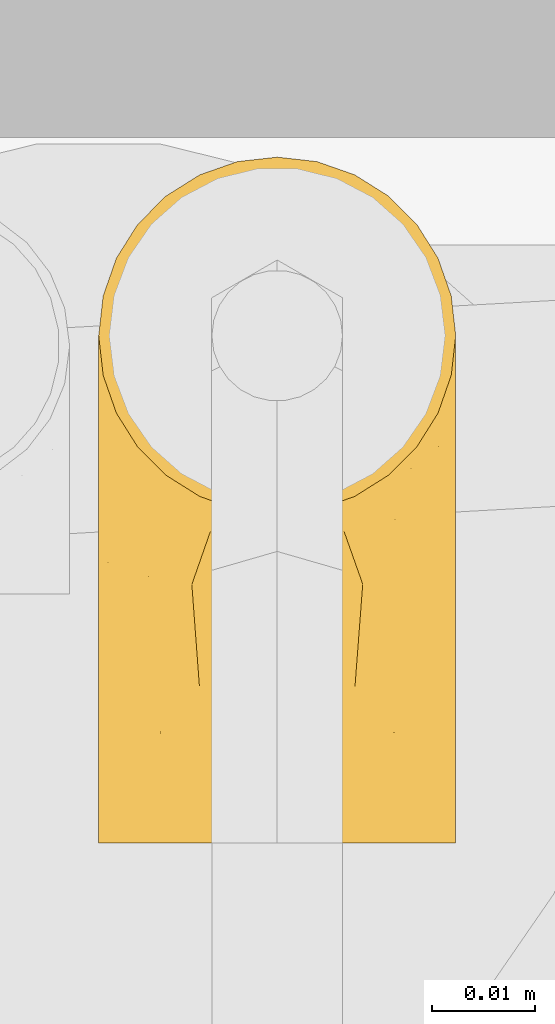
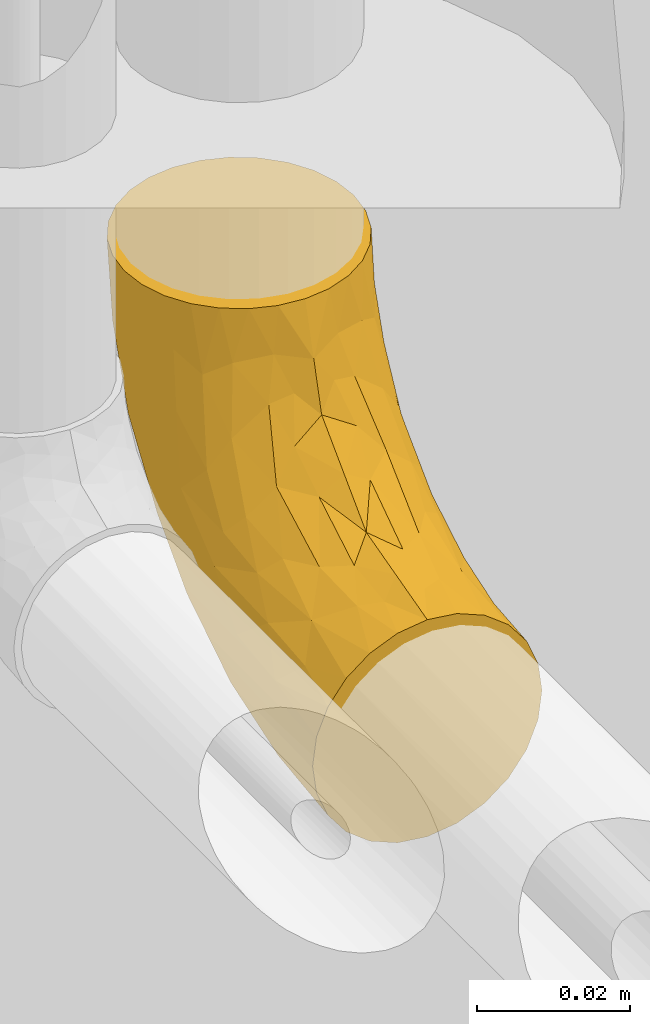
# One storey, part 9 of 30: 1 covering.
"""IFC2X3 building model written with IfcOpenShell, lengths in metres."""

from ifc_helpers import new_model, entity, si_unit, converted_unit, derived_unit, direction, frame, origin, place, context, subcontext, project, spatial, faceted_brep, material, type_object, element, save


model = new_model("IFC2X3")

# Units and contexts
model_context = context("Model", 3, precision=1e-05, world=origin(), true_north=direction((6.123031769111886e-17, 1.0)))
body_context = subcontext(model_context, "Body", "Model", "MODEL_VIEW")
ifc_project = project(units=[si_unit("LENGTHUNIT", "METRE"), si_unit("AREAUNIT", "SQUARE_METRE"), si_unit("VOLUMEUNIT", "CUBIC_METRE"), converted_unit("PLANEANGLEUNIT", "DEGREE", entity("IfcPlaneAngleMeasure", 0.017453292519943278), si_unit("PLANEANGLEUNIT", "RADIAN"), dimensions=[0, 0, 0, 0, 0, 0, 0]), si_unit("MASSUNIT", "GRAM", prefix="KILO"), derived_unit("MASSDENSITYUNIT", [(si_unit("MASSUNIT", "GRAM", prefix="KILO"), 1), (si_unit("LENGTHUNIT", "METRE"), -3)]), derived_unit("IONCONCENTRATIONUNIT", [(si_unit("MASSUNIT", "GRAM", prefix="KILO"), 1), (si_unit("LENGTHUNIT", "METRE"), -3)]), derived_unit("MOMENTOFINERTIAUNIT", [(si_unit("LENGTHUNIT", "METRE"), 4)]), si_unit("TIMEUNIT", "SECOND"), si_unit("FREQUENCYUNIT", "HERTZ"), si_unit("THERMODYNAMICTEMPERATUREUNIT", "DEGREE_CELSIUS"), derived_unit("THERMALTRANSMITTANCEUNIT", [(si_unit("MASSUNIT", "GRAM", prefix="KILO"), 1), (si_unit("THERMODYNAMICTEMPERATUREUNIT", "KELVIN"), -1), (si_unit("TIMEUNIT", "SECOND"), -3)]), derived_unit("THERMALCONDUCTANCEUNIT", [(si_unit("MASSUNIT", "GRAM", prefix="KILO"), 1), (si_unit("THERMODYNAMICTEMPERATUREUNIT", "KELVIN"), -1), (si_unit("TIMEUNIT", "SECOND"), -3), (si_unit("LENGTHUNIT", "METRE"), 1)]), derived_unit("VOLUMETRICFLOWRATEUNIT", [(si_unit("LENGTHUNIT", "METRE", prefix="DECI"), 3), (si_unit("TIMEUNIT", "SECOND"), -1)]), derived_unit("MASSFLOWRATEUNIT", [(si_unit("MASSUNIT", "GRAM", prefix="KILO"), 1), (si_unit("TIMEUNIT", "SECOND"), -1)]), derived_unit("ROTATIONALFREQUENCYUNIT", [(si_unit("TIMEUNIT", "SECOND"), -1)]), si_unit("ELECTRICCURRENTUNIT", "AMPERE"), si_unit("ELECTRICVOLTAGEUNIT", "VOLT"), si_unit("POWERUNIT", "WATT"), si_unit("FORCEUNIT", "NEWTON", prefix="KILO"), si_unit("ILLUMINANCEUNIT", "LUX"), si_unit("LUMINOUSFLUXUNIT", "LUMEN"), si_unit("LUMINOUSINTENSITYUNIT", "CANDELA"), si_unit("ENERGYUNIT", "JOULE"), derived_unit("USERDEFINED", [(si_unit("MASSUNIT", "GRAM", prefix="KILO"), -1), (si_unit("LENGTHUNIT", "METRE"), -2), (si_unit("TIMEUNIT", "SECOND"), 3), (si_unit("LUMINOUSFLUXUNIT", "LUMEN"), 1)]), derived_unit("USERDEFINED", [(si_unit("MASSUNIT", "GRAM", prefix="KILO"), 1), (si_unit("TIMEUNIT", "SECOND"), -3), (si_unit("LENGTHUNIT", "METRE"), 3), (si_unit("ELECTRICCURRENTUNIT", "AMPERE"), -2)]), derived_unit("SOUNDPOWERUNIT", [(si_unit("MASSUNIT", "GRAM", prefix="KILO"), 1), (si_unit("TIMEUNIT", "SECOND"), -3), (si_unit("LENGTHUNIT", "METRE"), 2)]), derived_unit("SOUNDPRESSUREUNIT", [(si_unit("MASSUNIT", "GRAM", prefix="KILO"), 1), (si_unit("LENGTHUNIT", "METRE"), -1), (si_unit("TIMEUNIT", "SECOND"), -2)]), derived_unit("LINEARVELOCITYUNIT", [(si_unit("LENGTHUNIT", "METRE"), 1), (si_unit("TIMEUNIT", "SECOND"), -1)]), si_unit("PRESSUREUNIT", "PASCAL"), derived_unit("USERDEFINED", [(si_unit("MASSUNIT", "GRAM", prefix="KILO"), 1), (si_unit("LENGTHUNIT", "METRE"), -2), (si_unit("TIMEUNIT", "SECOND"), -2)]), derived_unit("LINEARFORCEUNIT", [(si_unit("MASSUNIT", "GRAM", prefix="KILO"), 1), (si_unit("TIMEUNIT", "SECOND"), -2)]), derived_unit("PLANARFORCEUNIT", [(si_unit("MASSUNIT", "GRAM", prefix="KILO"), 1), (si_unit("LENGTHUNIT", "METRE"), -1), (si_unit("TIMEUNIT", "SECOND"), -2)]), derived_unit("SPECIFICHEATCAPACITYUNIT", [(si_unit("THERMODYNAMICTEMPERATUREUNIT", "KELVIN"), -1), (si_unit("LENGTHUNIT", "METRE"), 2), (si_unit("TIMEUNIT", "SECOND"), -2)]), derived_unit("HEATFLUXDENSITYUNIT", [(si_unit("MASSUNIT", "GRAM", prefix="KILO"), 1), (si_unit("TIMEUNIT", "SECOND"), -3)]), derived_unit("HEATINGVALUEUNIT", [(si_unit("LENGTHUNIT", "METRE"), 2), (si_unit("TIMEUNIT", "SECOND"), -2)]), derived_unit("VAPORPERMEABILITYUNIT", [(si_unit("LENGTHUNIT", "METRE"), -1), (si_unit("TIMEUNIT", "SECOND"), 1)]), derived_unit("DYNAMICVISCOSITYUNIT", [(si_unit("MASSUNIT", "GRAM", prefix="KILO"), 1), (si_unit("TIMEUNIT", "SECOND"), -1), (si_unit("LENGTHUNIT", "METRE"), -1)]), derived_unit("THERMALEXPANSIONCOEFFICIENTUNIT", [(si_unit("THERMODYNAMICTEMPERATUREUNIT", "KELVIN"), -1)]), derived_unit("MODULUSOFELASTICITYUNIT", [(si_unit("MASSUNIT", "GRAM", prefix="KILO"), 1), (si_unit("LENGTHUNIT", "METRE"), -1), (si_unit("TIMEUNIT", "SECOND"), -2)]), derived_unit("ISOTHERMALMOISTURECAPACITYUNIT", [(si_unit("MASSUNIT", "GRAM", prefix="KILO"), -1), (si_unit("LENGTHUNIT", "METRE"), 3)]), derived_unit("MOISTUREDIFFUSIVITYUNIT", [(si_unit("TIMEUNIT", "SECOND"), -1), (si_unit("LENGTHUNIT", "METRE"), 2)]), derived_unit("MASSPERLENGTHUNIT", [(si_unit("MASSUNIT", "GRAM", prefix="KILO"), 1), (si_unit("LENGTHUNIT", "METRE"), -1)]), derived_unit("THERMALRESISTANCEUNIT", [(si_unit("MASSUNIT", "GRAM", prefix="KILO"), -1), (si_unit("TIMEUNIT", "SECOND"), 3), (si_unit("THERMODYNAMICTEMPERATUREUNIT", "KELVIN"), 1)]), derived_unit("ACCELERATIONUNIT", [(si_unit("LENGTHUNIT", "METRE"), 1), (si_unit("TIMEUNIT", "SECOND"), -2)]), derived_unit("ANGULARVELOCITYUNIT", [(si_unit("TIMEUNIT", "SECOND"), -1), (si_unit("PLANEANGLEUNIT", "RADIAN"), 1)]), derived_unit("LINEARSTIFFNESSUNIT", [(si_unit("MASSUNIT", "GRAM", prefix="KILO"), 1), (si_unit("TIMEUNIT", "SECOND"), -2)]), derived_unit("WARPINGCONSTANTUNIT", [(si_unit("LENGTHUNIT", "METRE"), 6)]), derived_unit("LINEARMOMENTUNIT", [(si_unit("MASSUNIT", "GRAM", prefix="KILO"), 1), (si_unit("LENGTHUNIT", "METRE"), 1), (si_unit("TIMEUNIT", "SECOND"), -2)]), derived_unit("TORQUEUNIT", [(si_unit("MASSUNIT", "GRAM", prefix="KILO"), 1), (si_unit("LENGTHUNIT", "METRE"), 2), (si_unit("TIMEUNIT", "SECOND"), -2)])], contexts=[model_context])

# Site, building, storey
site_placement = place(None, origin())
site = spatial("IfcSite", under=ifc_project, at=site_placement, Name="Default", CompositionType="ELEMENT")
building_placement = place(site_placement, origin())
building = spatial("IfcBuilding", under=site, at=building_placement, CompositionType="ELEMENT")
storey_placement = place(building_placement, origin())
storey = spatial("IfcBuildingStorey", under=building, at=storey_placement, Name="Niveau 0", CompositionType="ELEMENT", Elevation=-1.949160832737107e-14)

# Covering
ifc_material = material(Name="Matériau du rendu 255-255-255")
covering_type = type_object("IfcCoveringType", Name="Isolation des canalisations:Par défaut", PredefinedType="INSULATION")
covering_placement = place(storey_placement, frame((-19.84773470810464, 2.7983812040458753, -0.4339452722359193)))
element("IfcCovering", 1, at=covering_placement, inside=storey, type_object=covering_type, material=ifc_material, Name="Isolation des canalisations:Par défaut", ObjectType="Isolation des canalisations:Par défaut", PredefinedType="INSULATION", context=body_context, shape_type="Brep", body=[
    faceted_brep([(0.032507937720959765, 0.06171546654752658, 0.06824527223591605), (0.029760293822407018, 0.06446206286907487, 0.06824527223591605), (0.026470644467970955, 0.06652829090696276, 0.06824527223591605), (0.022803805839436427, 0.06781077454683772, 0.06824527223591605), (0.018945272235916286, 0.06824527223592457, 0.06824527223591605), (0.01508260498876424, 0.06780983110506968, 0.06824527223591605), (0.01141465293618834, 0.06652576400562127, 0.06824527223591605), (0.008125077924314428, 0.06445793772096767, 0.06824527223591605), (0.005378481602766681, 0.061710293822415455, 0.06824527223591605), (0.003312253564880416, 0.05842064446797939, 0.06824527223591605), (0.0020297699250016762, 0.05475380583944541, 0.06824527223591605), (0.0015952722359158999, 0.05089527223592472, 0.06824527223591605), (0.00203071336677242, 0.0470326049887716, 0.06824527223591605), (0.003314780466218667, 0.043364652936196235, 0.06824527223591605), (0.005382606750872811, 0.04007507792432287, 0.06824527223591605), (0.008130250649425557, 0.03732848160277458, 0.06824527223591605), (0.01141990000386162, 0.035262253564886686, 0.06824527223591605), (0.015086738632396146, 0.03397976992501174, 0.06824527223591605), (0.018945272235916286, 0.03354527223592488, 0.06824527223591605), (0.022807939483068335, 0.033980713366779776, 0.06824527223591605), (0.026475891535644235, 0.03526478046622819, 0.06824527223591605), (0.029765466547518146, 0.03733260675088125, 0.06824527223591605), (0.0325120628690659, 0.040080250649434, 0.06824527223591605), (0.03457829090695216, 0.04336990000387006, 0.06824527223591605), (0.0358607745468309, 0.04703673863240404, 0.06824527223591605), (0.03629527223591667, 0.05089527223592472, 0.06824527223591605), (0.03585983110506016, 0.054757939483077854, 0.06824527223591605), (0.03457576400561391, 0.05842589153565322, 0.06824527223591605), (0.014454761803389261, 0.0015952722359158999, 0.03570408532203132), (0.010270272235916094, 0.0015952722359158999, 0.03397081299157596), (0.006676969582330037, 0.0015952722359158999, 0.031213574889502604), (0.003919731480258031, 0.0015952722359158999, 0.027620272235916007), (0.002186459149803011, 0.0015952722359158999, 0.023435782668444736), (0.0015952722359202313, 0.0015952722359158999, 0.01894527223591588), (0.002186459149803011, 0.0015952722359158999, 0.014454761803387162), (0.003919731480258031, 0.0015952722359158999, 0.010270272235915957), (0.006676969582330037, 0.0015952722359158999, 0.0066769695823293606), (0.010270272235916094, 0.0015952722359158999, 0.003919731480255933), (0.014454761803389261, 0.0015952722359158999, 0.0021864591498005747), (0.018945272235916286, 0.0015952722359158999, 0.0015952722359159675), (0.023435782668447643, 0.0015952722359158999, 0.0021864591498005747), (0.027620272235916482, 0.0015952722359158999, 0.003919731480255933), (0.03121357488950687, 0.0015952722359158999, 0.0066769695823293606), (0.03397081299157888, 0.0015952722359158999, 0.010270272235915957), (0.035704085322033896, 0.0015952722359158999, 0.014454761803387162), (0.03629527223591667, 0.0015952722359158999, 0.01894527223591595), (0.035704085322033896, 0.0015952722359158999, 0.023435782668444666), (0.03397081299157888, 0.0015952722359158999, 0.02762027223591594), (0.03121357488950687, 0.0015952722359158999, 0.03121357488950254), (0.027620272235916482, 0.0015952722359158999, 0.03397081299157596), (0.023435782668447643, 0.0015952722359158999, 0.03570408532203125), (0.018945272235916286, 0.0015952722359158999, 0.03629527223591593), (0.03133458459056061, 0.04461060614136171, 0.02436700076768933), (0.032451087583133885, 0.0552060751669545, 0.04088020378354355), (0.03378706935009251, 0.046627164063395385, 0.03124045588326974), (0.0221495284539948, 0.0226352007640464, 0.005317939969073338), (0.018945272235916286, 0.018502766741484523, 0.004958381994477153), (0.018945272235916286, 0.027101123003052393, 0.006668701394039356), (0.02881601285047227, 0.026428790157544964, 0.009728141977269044), (0.030682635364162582, 0.034746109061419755, 0.01576098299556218), (0.03274319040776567, 0.027248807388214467, 0.014206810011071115), (0.02524054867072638, 0.017647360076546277, 0.00477606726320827), (0.02920065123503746, 0.01300462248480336, 0.005987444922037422), (0.03568226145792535, 0.04295128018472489, 0.03372303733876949), (0.03629527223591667, 0.03645563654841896, 0.03338490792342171), (0.035977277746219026, 0.031412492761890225, 0.02490495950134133), (0.030752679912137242, 0.061445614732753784, 0.05201300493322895), (0.029890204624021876, 0.05371291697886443, 0.033276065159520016), (0.035814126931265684, 0.018347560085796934, 0.017585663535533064), (0.03439283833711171, 0.026339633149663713, 0.01667542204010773), (0.023163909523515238, 0.0597117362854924, 0.03669274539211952), (0.024353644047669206, 0.06535510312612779, 0.05204597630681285), (0.027451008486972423, 0.059929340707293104, 0.040907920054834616), (0.03226292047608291, 0.01767674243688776, 0.010004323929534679), (0.03629527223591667, 0.04714253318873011, 0.04937897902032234), (0.03629527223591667, 0.04179908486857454, 0.041381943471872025), (0.03478404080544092, 0.013167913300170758, 0.013063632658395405), (0.023959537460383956, 0.03768974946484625, 0.013097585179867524), (0.022772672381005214, 0.04805807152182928, 0.021058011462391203), (0.026249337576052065, 0.050099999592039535, 0.024918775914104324), (0.01894527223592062, 0.06570855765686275, 0.05549234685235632), (0.027542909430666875, 0.03837572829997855, 0.015418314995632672), (0.02460805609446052, 0.028042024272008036, 0.00810343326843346), (0.027861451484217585, 0.06459915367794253, 0.05599549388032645), (0.018945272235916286, 0.06317184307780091, 0.04273942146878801), (0.03629527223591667, 0.04921371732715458, 0.059791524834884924), (0.035914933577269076, 0.051792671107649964, 0.05151216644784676), (0.03331102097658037, 0.059323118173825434, 0.05592114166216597), (0.03484866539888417, 0.036967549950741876, 0.024527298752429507), (0.03502647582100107, 0.05614202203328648, 0.05642461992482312), (0.033085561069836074, 0.03623295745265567, 0.020046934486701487), (0.034797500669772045, 0.05241841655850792, 0.04390302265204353), (0.03629527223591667, 0.02845860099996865, 0.028041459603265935), (0.03629527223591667, 0.020461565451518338, 0.022698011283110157), (0.03629527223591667, 0.049018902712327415, 0.05881212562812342), (0.018945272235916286, 0.05594789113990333, 0.03192801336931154), (0.028838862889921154, 0.045751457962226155, 0.0225377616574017), (0.018945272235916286, 0.037912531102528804, 0.013892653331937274), (0.03629527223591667, 0.01004901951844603, 0.020626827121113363), (0.018945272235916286, 0.04872393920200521, 0.021116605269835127), (0.028741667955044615, 0.035620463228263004, 0.06012681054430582), (0.03550907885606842, 0.012762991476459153, 0.025545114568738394), (0.029714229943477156, 0.02081263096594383, 0.03816302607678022), (0.03027861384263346, 0.01228641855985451, 0.03369863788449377), (0.03257014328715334, 0.02251144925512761, 0.03585312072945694), (0.03596260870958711, 0.04260303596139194, 0.04758380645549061), (0.03575428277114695, 0.045399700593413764, 0.05793604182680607), (0.034643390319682, 0.04014164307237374, 0.05179104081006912), (0.035903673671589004, 0.02204334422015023, 0.027448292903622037), (0.03378644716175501, 0.017602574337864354, 0.031246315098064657), (0.021988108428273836, 0.031224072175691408, 0.055588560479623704), (0.023813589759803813, 0.03344901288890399, 0.0610921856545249), (0.018945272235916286, 0.03132557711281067, 0.05996125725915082), (0.033445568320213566, 0.03422892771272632, 0.04550906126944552), (0.03563656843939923, 0.03727571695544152, 0.041544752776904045), (0.033215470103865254, 0.008887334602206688, 0.029493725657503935), (0.022634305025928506, 0.01435727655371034, 0.03852252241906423), (0.018945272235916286, 0.009879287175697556, 0.03851496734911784), (0.021964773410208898, 0.0075859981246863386, 0.03659242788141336), (0.03195826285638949, 0.03799786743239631, 0.057971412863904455), (0.03039020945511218, 0.03304464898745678, 0.05019700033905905), (0.025154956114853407, 0.009229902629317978, 0.03603849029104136), (0.026502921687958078, 0.016770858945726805, 0.038175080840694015), (0.03413176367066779, 0.04176616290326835, 0.06050425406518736), (0.02725796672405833, 0.026739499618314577, 0.04525391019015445), (0.03143954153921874, 0.027451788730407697, 0.04141450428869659), (0.018945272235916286, 0.029264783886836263, 0.05227027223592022), (0.022825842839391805, 0.02324953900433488, 0.04415845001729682), (0.018945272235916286, 0.01757027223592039, 0.04057576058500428), (0.03537608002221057, 0.02887512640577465, 0.03407046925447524), (0.025434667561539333, 0.03189092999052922, 0.054642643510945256), (0.023656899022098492, 0.02826597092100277, 0.04949521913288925), (0.018945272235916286, 0.023417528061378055, 0.04642301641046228), (0.03385023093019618, 0.029179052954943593, 0.03870099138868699), (0.007611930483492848, 0.012286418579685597, 0.03369863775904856), (0.00915422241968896, 0.035616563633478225, 0.06012621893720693), (0.00593650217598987, 0.03799129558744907, 0.05796574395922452), (0.015925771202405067, 0.007585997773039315, 0.036592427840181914), (0.0019307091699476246, 0.04259271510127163, 0.0475942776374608), (0.0015952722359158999, 0.04179908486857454, 0.041381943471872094), (0.0022613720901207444, 0.03724696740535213, 0.04154972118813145), (0.007507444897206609, 0.0330369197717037, 0.05019606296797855), (0.0064510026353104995, 0.027451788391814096, 0.04141450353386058), (0.004039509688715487, 0.029189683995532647, 0.03870907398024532), (0.005316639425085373, 0.02252106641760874, 0.035853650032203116), (0.01408465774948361, 0.033447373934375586, 0.06109515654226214), (0.0025144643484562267, 0.028875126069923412, 0.03407046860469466), (0.0019868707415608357, 0.022043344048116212, 0.027448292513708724), (0.00410409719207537, 0.017602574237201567, 0.031246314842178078), (0.002381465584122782, 0.012762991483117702, 0.025545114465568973), (0.0015952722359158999, 0.010049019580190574, 0.020626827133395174), (0.003761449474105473, 0.041759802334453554, 0.06049677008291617), (0.002137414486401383, 0.04539407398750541, 0.057931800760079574), (0.0032492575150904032, 0.040131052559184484, 0.05177761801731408), (0.012735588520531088, 0.009229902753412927, 0.03603849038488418), (0.004675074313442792, 0.008887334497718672, 0.029493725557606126), (0.004452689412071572, 0.03422554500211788, 0.04552472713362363), (0.015256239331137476, 0.014357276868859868, 0.038522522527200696), (0.01423508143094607, 0.028258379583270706, 0.049485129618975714), (0.010647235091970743, 0.02671264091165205, 0.04523640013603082), (0.015070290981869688, 0.023230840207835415, 0.04414337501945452), (0.01590572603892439, 0.031223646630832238, 0.0555890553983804), (0.012461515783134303, 0.03189268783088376, 0.054652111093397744), (0.011387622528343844, 0.016770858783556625, 0.038175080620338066), (0.0015952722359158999, 0.04921371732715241, 0.05979152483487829), (0.0015952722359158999, 0.049018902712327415, 0.05881212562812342), (0.0015952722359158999, 0.04714253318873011, 0.04937897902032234), (0.0015952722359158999, 0.020461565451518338, 0.022698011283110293), (0.0015952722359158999, 0.02845860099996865, 0.02804145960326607), (0.008173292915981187, 0.02080538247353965, 0.03815555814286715), (0.0015952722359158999, 0.03645563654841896, 0.03338490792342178), (0.0051445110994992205, 0.027228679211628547, 0.014201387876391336), (0.007214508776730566, 0.03476363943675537, 0.015764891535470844), (0.009074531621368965, 0.026428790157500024, 0.009728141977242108), (0.01574101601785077, 0.022635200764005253, 0.0053179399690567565), (0.013282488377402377, 0.028042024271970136, 0.008103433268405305), (0.013931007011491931, 0.03768974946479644, 0.013097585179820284), (0.010434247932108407, 0.05992974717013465, 0.040915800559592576), (0.013532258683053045, 0.06535408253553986, 0.05204814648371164), (0.014723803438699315, 0.059705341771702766, 0.03668245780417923), (0.005435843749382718, 0.0552010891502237, 0.04088029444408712), (0.004097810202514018, 0.0466060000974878, 0.0312294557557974), (0.0030906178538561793, 0.052421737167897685, 0.0439225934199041), (0.0022062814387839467, 0.042970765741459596, 0.03375784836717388), (0.0020764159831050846, 0.01834045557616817, 0.017583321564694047), (0.003497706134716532, 0.0263396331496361, 0.01667542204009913), (0.004809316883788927, 0.03621599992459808, 0.02002725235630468), (0.0031070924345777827, 0.013166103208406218, 0.013061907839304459), (0.01264999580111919, 0.01764736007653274, 0.0047760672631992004), (0.010023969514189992, 0.06459558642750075, 0.05599323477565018), (0.008689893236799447, 0.013004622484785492, 0.005987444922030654), (0.010351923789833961, 0.03835185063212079, 0.015398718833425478), (0.0056276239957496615, 0.017676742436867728, 0.010004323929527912), (0.004576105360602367, 0.059318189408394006, 0.05592223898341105), (0.007133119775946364, 0.06144180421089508, 0.05201579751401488), (0.001974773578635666, 0.05178953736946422, 0.051515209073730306), (0.007727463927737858, 0.05783699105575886, 0.04090335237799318), (0.0065559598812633, 0.04461060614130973, 0.02436700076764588), (0.00285198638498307, 0.05616681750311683, 0.056683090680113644), (0.01511429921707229, 0.04806993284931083, 0.02107082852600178), (0.011632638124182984, 0.050092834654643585, 0.024916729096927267), (0.0019147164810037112, 0.03141789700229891, 0.024899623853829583), (0.0030477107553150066, 0.03701879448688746, 0.02455161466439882), (0.00904990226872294, 0.04571403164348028, 0.022503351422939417), (0.009268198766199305, 0.053655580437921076, 0.03153712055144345)], [[[0, 1, 2, 3, 4, 5, 6, 7, 8, 9, 10, 11, 12, 13, 14, 15, 16, 17, 18, 19, 20, 21, 22, 23, 24, 25, 26, 27]], [[28, 29, 30, 31, 32, 33, 34, 35, 36, 37, 38, 39, 40, 41, 42, 43, 44, 45, 46, 47, 48, 49, 50, 51]], [[52, 53, 54]], [[55, 56, 57]], [[58, 59, 60]], [[61, 58, 62]], [[63, 64, 65]], [[61, 41, 40]], [[66, 53, 67]], [[68, 69, 65]], [[70, 71, 72]], [[62, 73, 42]], [[63, 74, 75, 64]], [[45, 44, 68]], [[69, 68, 76]], [[77, 78, 79]], [[42, 73, 43]], [[80, 4, 3]], [[58, 81, 59]], [[61, 55, 82]], [[71, 2, 83]], [[84, 71, 70]], [[83, 2, 1]], [[3, 71, 80]], [[71, 84, 80]], [[77, 55, 57]], [[2, 71, 3]], [[0, 66, 1]], [[26, 25, 85]], [[63, 86, 74]], [[66, 87, 53]], [[62, 42, 41]], [[63, 65, 88]], [[26, 86, 89]], [[40, 56, 55]], [[73, 60, 76]], [[83, 72, 71]], [[90, 59, 52]], [[40, 55, 61]], [[87, 66, 0]], [[1, 66, 83]], [[87, 0, 27]], [[72, 83, 66]], [[91, 89, 86]], [[53, 87, 91]], [[54, 53, 91]], [[67, 53, 52]], [[63, 54, 91]], [[54, 88, 90]], [[91, 87, 89]], [[65, 64, 92, 93]], [[86, 63, 91]], [[86, 85, 94, 74]], [[26, 85, 86]], [[70, 72, 79]], [[78, 95, 70]], [[67, 79, 72]], [[59, 81, 96]], [[40, 39, 56]], [[77, 57, 97]], [[82, 55, 77]], [[87, 27, 89]], [[26, 89, 27]], [[81, 82, 77]], [[58, 61, 82]], [[68, 65, 93]], [[88, 65, 69]], [[68, 93, 98, 45]], [[76, 68, 44]], [[90, 88, 69]], [[54, 63, 88]], [[60, 90, 69]], [[54, 90, 52]], [[59, 90, 60]], [[82, 81, 58]], [[77, 79, 81]], [[96, 81, 79]], [[44, 43, 76]], [[73, 76, 43]], [[61, 62, 41]], [[73, 62, 58]], [[76, 60, 69]], [[60, 73, 58]], [[70, 79, 78]], [[95, 84, 70]], [[67, 52, 96]], [[78, 97, 99]], [[66, 67, 72]], [[97, 78, 77]], [[78, 99, 95]], [[67, 96, 79]], [[59, 96, 52]], [[100, 21, 20]], [[93, 101, 98]], [[102, 103, 104]], [[98, 101, 46]], [[105, 106, 107]], [[108, 109, 101]], [[110, 111, 112]], [[92, 108, 93]], [[113, 114, 107]], [[47, 115, 48]], [[116, 117, 118]], [[49, 48, 103]], [[119, 100, 120]], [[100, 119, 21]], [[121, 122, 116]], [[119, 120, 113]], [[103, 122, 121]], [[115, 103, 48]], [[119, 107, 123]], [[123, 23, 22]], [[118, 51, 50]], [[23, 106, 24]], [[106, 74, 94]], [[46, 101, 47]], [[115, 101, 109]], [[123, 106, 23]], [[124, 125, 120]], [[19, 18, 112]], [[119, 22, 21]], [[110, 112, 126]], [[111, 20, 19]], [[114, 75, 105]], [[116, 127, 128]], [[122, 127, 116]], [[64, 129, 92]], [[106, 94, 24]], [[111, 100, 20]], [[109, 129, 104]], [[130, 124, 120]], [[130, 120, 100]], [[120, 125, 113]], [[130, 110, 131]], [[102, 124, 122]], [[121, 118, 50]], [[24, 94, 85, 25]], [[128, 117, 116]], [[127, 122, 124]], [[131, 124, 130]], [[131, 132, 127]], [[119, 123, 22]], [[106, 123, 107]], [[108, 101, 93]], [[113, 107, 119]], [[129, 133, 104]], [[125, 133, 113]], [[113, 133, 114]], [[129, 64, 114]], [[75, 74, 105]], [[92, 129, 108]], [[109, 108, 129]], [[46, 45, 98]], [[111, 110, 130]], [[126, 131, 110]], [[124, 131, 127]], [[111, 130, 100]], [[112, 111, 19]], [[50, 49, 121]], [[103, 121, 49]], [[101, 115, 47]], [[103, 115, 109]], [[116, 118, 121]], [[51, 118, 117]], [[133, 125, 104]], [[114, 133, 129]], [[102, 104, 125]], [[103, 109, 104]], [[124, 102, 125]], [[103, 102, 122]], [[114, 64, 75]], [[106, 105, 74]], [[107, 114, 105]], [[132, 131, 126]], [[132, 128, 127]], [[30, 29, 134]], [[135, 15, 136]], [[51, 117, 137]], [[138, 139, 140]], [[141, 135, 136]], [[142, 143, 144]], [[145, 112, 17]], [[146, 147, 148]], [[149, 150, 32]], [[151, 152, 153]], [[134, 29, 154]], [[155, 31, 30]], [[15, 135, 16]], [[149, 32, 31]], [[156, 141, 136]], [[157, 117, 128]], [[158, 159, 160]], [[126, 112, 161]], [[161, 145, 162]], [[155, 149, 31]], [[154, 28, 137]], [[14, 151, 136]], [[15, 14, 136]], [[145, 16, 135]], [[135, 141, 162]], [[14, 13, 151]], [[13, 12, 152]], [[146, 144, 143]], [[143, 140, 146]], [[159, 163, 160]], [[12, 11, 164, 165]], [[12, 165, 152]], [[138, 152, 166]], [[141, 159, 162]], [[155, 134, 148]], [[112, 18, 17]], [[167, 147, 168]], [[144, 169, 142]], [[145, 135, 162]], [[156, 136, 153]], [[141, 142, 159]], [[169, 159, 142]], [[157, 160, 163]], [[157, 128, 160]], [[166, 152, 165]], [[154, 137, 157]], [[157, 163, 154]], [[158, 132, 126]], [[126, 161, 158]], [[152, 151, 13]], [[136, 151, 153]], [[168, 146, 170]], [[149, 147, 167]], [[156, 142, 141]], [[140, 156, 153]], [[143, 142, 156]], [[140, 153, 138]], [[170, 146, 140]], [[148, 147, 149]], [[146, 168, 147]], [[150, 149, 167]], [[150, 33, 32]], [[158, 161, 162]], [[159, 158, 162]], [[160, 132, 158]], [[112, 145, 161]], [[16, 145, 17]], [[134, 154, 163]], [[29, 28, 154]], [[134, 155, 30]], [[149, 155, 148]], [[51, 137, 28]], [[157, 137, 117]], [[140, 143, 156]], [[144, 146, 148]], [[148, 134, 144]], [[169, 134, 163]], [[134, 169, 144]], [[159, 169, 163]], [[139, 138, 166]], [[139, 170, 140]], [[152, 138, 153]], [[160, 128, 132]], [[171, 172, 173]], [[174, 175, 176]], [[177, 178, 179]], [[180, 181, 182]], [[183, 182, 181]], [[184, 33, 150, 167]], [[171, 185, 186]], [[184, 187, 34]], [[174, 38, 188]], [[177, 189, 178]], [[36, 190, 37]], [[176, 175, 191]], [[192, 36, 35]], [[37, 190, 188]], [[174, 176, 57]], [[193, 8, 194]], [[183, 166, 195]], [[175, 174, 188]], [[195, 166, 165, 164]], [[56, 174, 57]], [[7, 194, 8]], [[196, 197, 180]], [[179, 178, 84]], [[9, 193, 198]], [[8, 193, 9]], [[190, 192, 173]], [[179, 95, 199]], [[189, 6, 178]], [[193, 180, 182]], [[6, 189, 7]], [[5, 80, 178]], [[177, 179, 200]], [[201, 170, 183]], [[177, 194, 189]], [[37, 188, 38]], [[178, 6, 5]], [[194, 177, 196]], [[164, 11, 10]], [[187, 192, 35]], [[167, 201, 184]], [[194, 7, 189]], [[180, 193, 194]], [[198, 182, 195]], [[196, 180, 194]], [[181, 180, 197]], [[185, 202, 186]], [[201, 167, 168, 170]], [[201, 202, 185]], [[183, 170, 139, 166]], [[195, 182, 183]], [[164, 10, 195]], [[198, 10, 9]], [[199, 95, 99]], [[200, 199, 176]], [[191, 173, 172]], [[200, 203, 204]], [[174, 56, 38]], [[56, 39, 38]], [[199, 97, 176]], [[182, 198, 193]], [[10, 198, 195]], [[188, 173, 175]], [[191, 175, 173]], [[202, 201, 183]], [[184, 201, 185]], [[187, 184, 185]], [[33, 184, 34]], [[183, 181, 202]], [[186, 181, 197]], [[181, 186, 202]], [[186, 197, 172]], [[191, 203, 200]], [[171, 173, 192]], [[203, 172, 197]], [[200, 176, 191]], [[187, 185, 171]], [[35, 34, 187]], [[192, 190, 36]], [[188, 190, 173]], [[172, 171, 186]], [[187, 171, 192]], [[179, 84, 95]], [[80, 5, 4]], [[80, 84, 178]], [[97, 57, 176]], [[177, 200, 204]], [[179, 199, 200]], [[97, 199, 99]], [[172, 203, 191]], [[204, 197, 196]], [[197, 204, 203]], [[177, 204, 196]]]),
])

save(model, "model.ifc")
